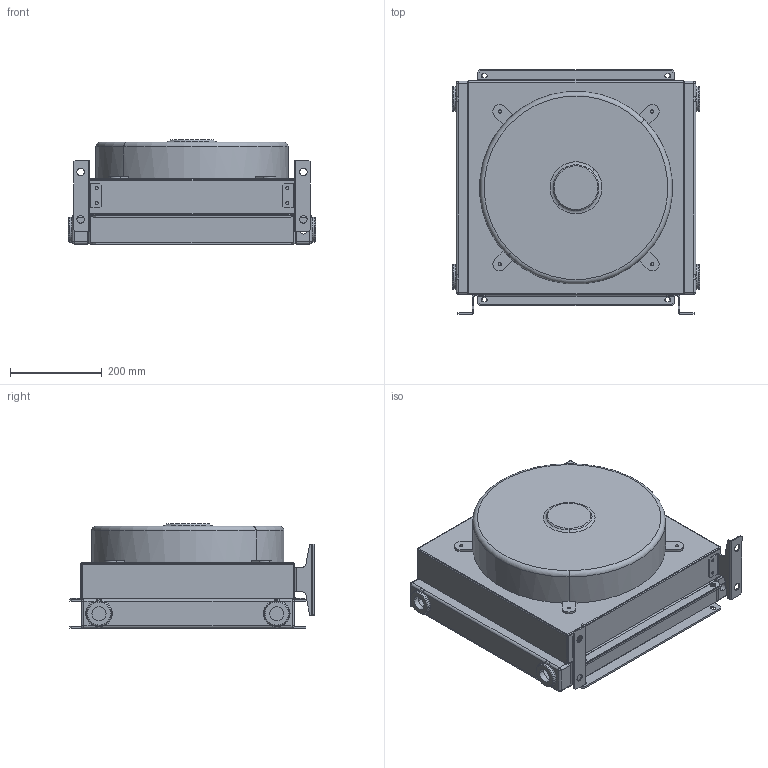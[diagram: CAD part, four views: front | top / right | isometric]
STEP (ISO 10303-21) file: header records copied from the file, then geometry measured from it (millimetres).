
FILE_DESCRIPTION (( 'STEP AP203' ), '1' );
FILE_NAME ('SS2400300A-P.STEP', '2015-11-02T10:14:34', ( '' ), ( '' ), 'SwSTEP 2.0', 'SolidWorks 2015', '' );
FILE_SCHEMA (( 'CONFIG_CONTROL_DESIGN' ));
Length unit declared in the file: millimetre
Products named in the file (8): P20230; SS2400300A-P; RAD-SS40; VAS-SS240-A; VAS-SS240-B; SUP-SS40; CS01450; ES03450A
Assembly tree (11 placements, depth 2):
  SS2400300A-P
    RAD-SS40
    VAS-SS240-A
    VAS-SS240-B
    SUP-SS40  x4
    CS01450
    ES03450A
    P20230  x2
Bounding box: 538 x 532 x 227 mm (x, y, z)
Volume: 25519891.6 mm3; surface area: 1807928.4 mm2
Topology: 11 solids, 11 shells, 497 faces, 1269 edges, 790 vertices
Faces by surface type: plane 226, cylinder 165, torus 48, bspline 40, cone 10, sphere 8
Entity records: 14911 total; most frequent: CARTESIAN_POINT 3942, DIRECTION 2141, ORIENTED_EDGE 2090, EDGE_CURVE 1045, AXIS2_PLACEMENT_3D 805, VERTEX_POINT 646, VECTOR 531, LINE 531
